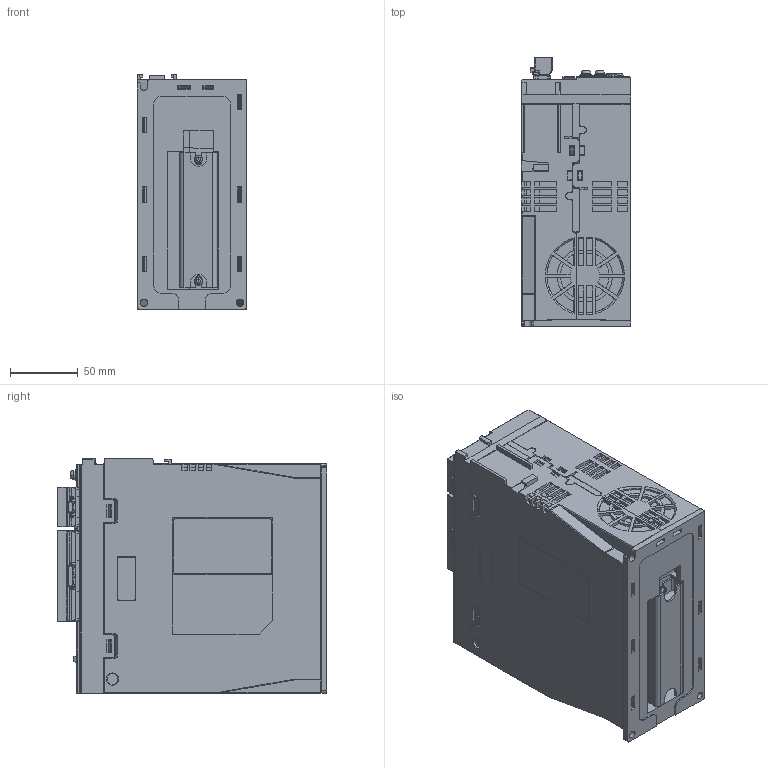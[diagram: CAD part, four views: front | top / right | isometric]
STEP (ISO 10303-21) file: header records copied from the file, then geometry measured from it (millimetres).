
FILE_DESCRIPTION((''),'2;1');
FILE_NAME('ES3-15BAI','2024-09-02T16:52:18',('Admin'),(''),'CREO PARAMETRIC BY PTC INC, 2020074','CREO PARAMETRIC BY PTC INC, 2020074','');
FILE_SCHEMA(('CONFIG_CONTROL_DESIGN'));
Products named in the file (1): ES3-15BAI
Bounding box: 81.1 x 199.4 x 174 mm (x, y, z)
Volume: 1428690.5 mm3; surface area: 345269.1 mm2
Topology: 1 solids, 2 shells, 4251 faces, 12111 edges, 7886 vertices
Faces by surface type: plane 2997, cylinder 843, cone 178, bspline 107, torus 63, sphere 47, extrusion 16
Entity records: 148292 total; most frequent: CARTESIAN_POINT 37966, ORIENTED_EDGE 24120, DIRECTION 21155, EDGE_CURVE 12060, VECTOR 9299, LINE 9283, VERTEX_POINT 7886, AXIS2_PLACEMENT_3D 5928
